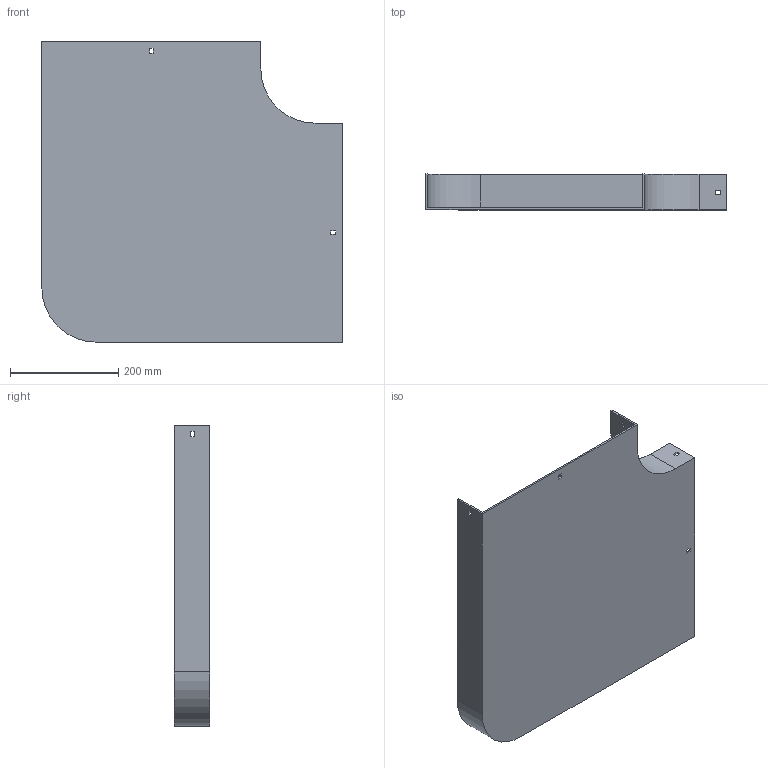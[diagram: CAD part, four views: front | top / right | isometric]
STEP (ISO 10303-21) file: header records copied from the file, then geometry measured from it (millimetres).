
FILE_DESCRIPTION (( 'STEP AP214' ), '1' );
FILE_NAME ('10B1H400.step', '2025-02-21T09:41:14', ( '' ), ( '' ), 'SwSTEP 2.0', 'SolidWorks 2023', '' );
FILE_SCHEMA (( 'AUTOMOTIVE_DESIGN' ));
Length unit declared in the file: millimetre
Products named in the file (1): 10B1H400
Bounding box: 554 x 65.5 x 554 mm (x, y, z)
Volume: 1280975.1 mm3; surface area: 741002.3 mm2
Topology: 1 solids, 1 shells, 42 faces, 120 edges, 80 vertices
Faces by surface type: plane 38, cylinder 4
Entity records: 1399 total; most frequent: CARTESIAN_POINT 243, ORIENTED_EDGE 240, DIRECTION 214, EDGE_CURVE 120, VECTOR 112, LINE 112, VERTEX_POINT 80, EDGE_LOOP 54
